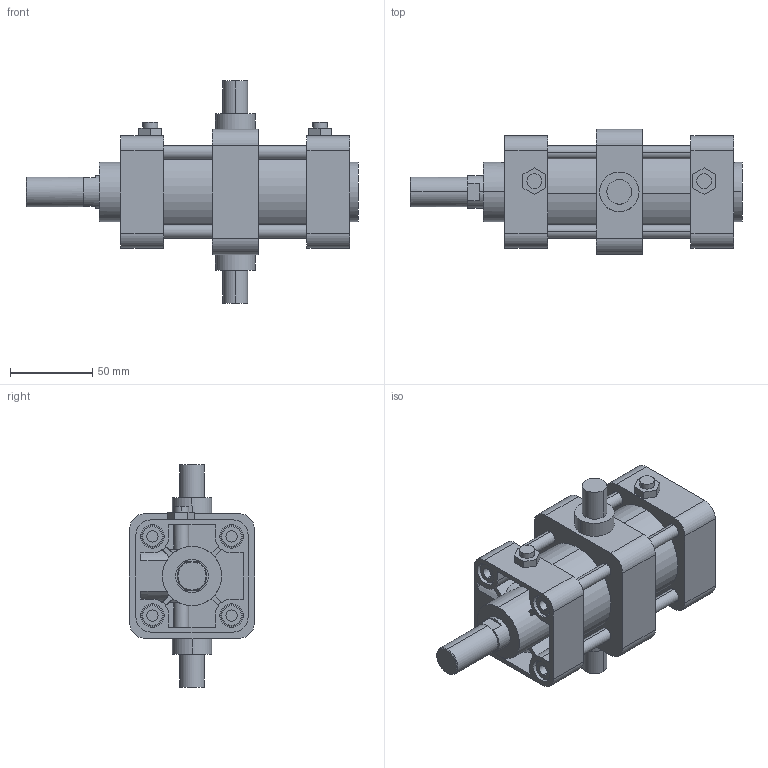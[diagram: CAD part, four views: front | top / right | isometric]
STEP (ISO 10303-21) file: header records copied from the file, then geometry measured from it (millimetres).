
FILE_DESCRIPTION (( 'STEP AP203' ), '1' );
FILE_NAME ('KG2-50-50-T.STEP', '2016-04-01T08:13:35', ( '' ), ( '' ), 'SwSTEP 2.0', 'SolidWorks 2014', '' );
FILE_SCHEMA (( 'CONFIG_CONTROL_DESIGN' ));
Length unit declared in the file: millimetre
Products named in the file (7): K-50-T; KG2-50-After; KGLH2-50-50; KG2-50-50-T
Assembly tree (16 placements, depth 2):
  KG2-50-50-T
    KG2-50-After
    KGLH2-50-50
    (unnamed)
    (unnamed)  x4
    (unnamed)  x8
    K-50-T
Bounding box: 201.5 x 76 x 135 mm (x, y, z)
Volume: 536817 mm3; surface area: 124384.1 mm2
Topology: 16 solids, 20 shells, 357 faces, 830 edges, 532 vertices
Faces by surface type: plane 151, cylinder 148, torus 32, cone 26
Entity records: 9087 total; most frequent: CARTESIAN_POINT 1650, DIRECTION 1418, ORIENTED_EDGE 1280, EDGE_CURVE 640, AXIS2_PLACEMENT_3D 534, VERTEX_POINT 422, LINE 350, VECTOR 350
